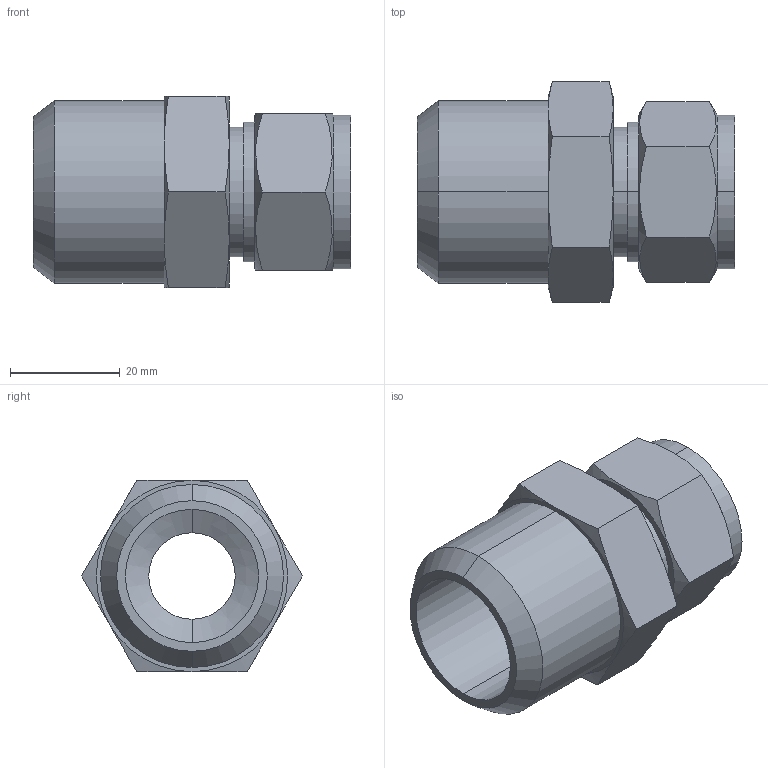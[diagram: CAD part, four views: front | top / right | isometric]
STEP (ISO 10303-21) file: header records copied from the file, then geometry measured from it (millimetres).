
FILE_DESCRIPTION (( 'STEP AP203' ), '1' );
FILE_NAME ('DCB12-16 SS.STEP', '2009-09-08T04:47:47', ( ' ' ), ( '' ), 'SwSTEP 2.0', 'SolidWorks 2008', '' );
FILE_SCHEMA (( 'CONFIG_CONTROL_DESIGN' ));
Length unit declared in the file: millimetre
Products named in the file (1): DCB12-16 SS
Bounding box: 57.9 x 40.33 x 34.93 mm (x, y, z)
Volume: 27376.3 mm3; surface area: 11531.1 mm2
Topology: 1 solids, 1 shells, 53 faces, 118 edges, 72 vertices
Faces by surface type: cone 20, plane 19, cylinder 14
Entity records: 1713 total; most frequent: CARTESIAN_POINT 500, ORIENTED_EDGE 236, DIRECTION 230, EDGE_CURVE 118, AXIS2_PLACEMENT_3D 98, VERTEX_POINT 72, EDGE_LOOP 60, ADVANCED_FACE 53
